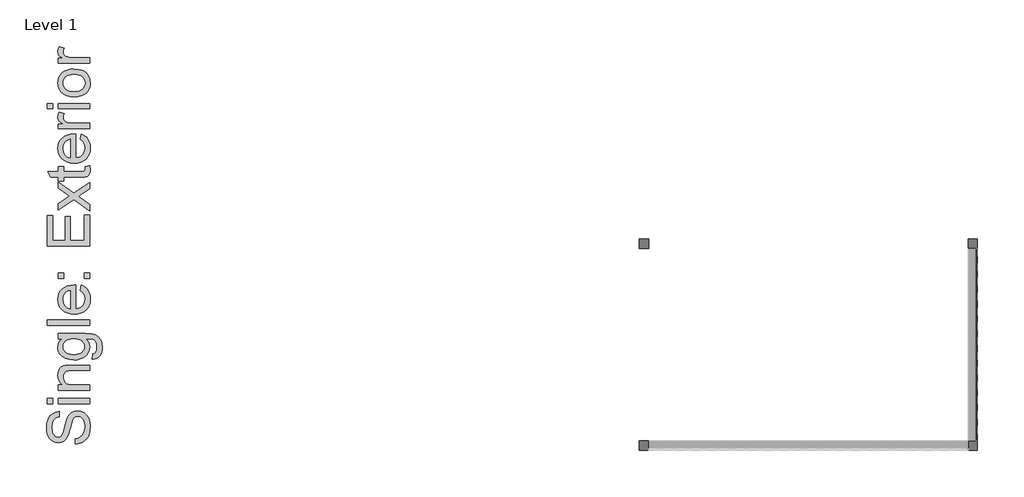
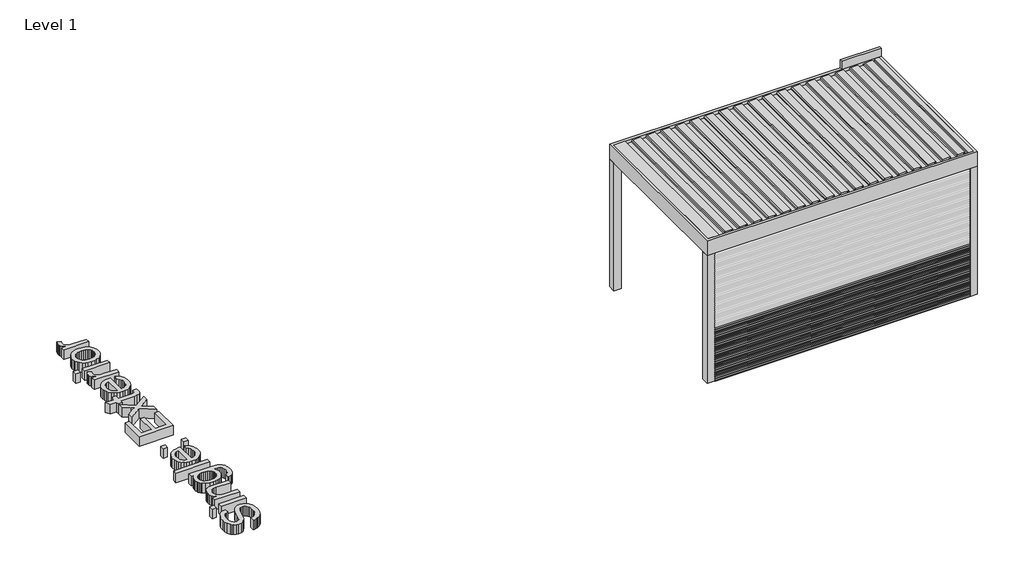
# One storey, part 37 of 47: 54 proxies.
"""IFC4 building model written with IfcOpenShell, lengths in millimetres."""

from ifc_helpers import new_model, si_unit, frame, origin, origin_with_axes, place, context, project, spatial, polyline, outline, extrude, transform, mapped, element, save
from components import generic_models_6c472f40

model = new_model("IFC4")

# Units and contexts
model_context = context("Model", 3, world=origin())
ifc_project = project(units=[si_unit("LENGTHUNIT", "METRE", prefix="MILLI")], contexts=[model_context])

# Site, building, storey
site = spatial("IfcSite", under=ifc_project)
building = spatial("IfcBuilding", under=site)
storey = spatial("IfcBuildingStorey", under=building, Name="Level 1", Elevation=0.0)

# Proxies
placement = place(None, origin())
element("IfcBuildingElementProxy", 1, Name="Wall Sweeps", at=placement, inside=storey, context=model_context, shape_type="SweptSolid", body=[
    extrude(outline(polyline([(39522.1593685, 808.5), (39541.3093685, 819.5562577), (39541.3093685, 832.5), (39542.5593685, 832.5), (39542.5593685, 818.8345698), (39523.4093685, 807.7782281), (39523.4093685, 795.7216933), (39522.1593685, 795.0), (39522.1593685, 808.5)])), frame((186472.4238385, 0.0, 0.0), z_axis=(1.0, 0.0, 0.0), x_axis=(0.0, 1.0, 0.0)), (0.0, 0.0, 1.0), 3780.0),
])
element("IfcBuildingElementProxy", 2, Name="Wall Sweeps", at=placement, inside=storey, context=model_context, shape_type="SweptSolid", body=[
    extrude(outline(polyline([(39522.1593685, 775.2), (39541.3093685, 786.2562577), (39541.3093685, 799.2), (39542.5593685, 799.2), (39542.5593685, 785.5345698), (39523.4093685, 774.4782281), (39523.4093685, 762.4216933), (39522.1593685, 761.7), (39522.1593685, 775.2)])), frame((186472.4238385, 0.0, 0.0), z_axis=(1.0, 0.0, 0.0), x_axis=(0.0, 1.0, 0.0)), (0.0, 0.0, 1.0), 3780.0),
])
element("IfcBuildingElementProxy", 3, Name="Wall Sweeps", at=placement, inside=storey, context=model_context, shape_type="SweptSolid", body=[
    extrude(outline(polyline([(39522.1593685, 741.9), (39541.3093685, 752.9562577), (39541.3093685, 765.9), (39542.5593685, 765.9), (39542.5593685, 752.2345698), (39523.4093685, 741.1782281), (39523.4093685, 729.1216933), (39522.1593685, 728.4), (39522.1593685, 741.9)])), frame((186472.4238385, 0.0, 0.0), z_axis=(1.0, 0.0, 0.0), x_axis=(0.0, 1.0, 0.0)), (0.0, 0.0, 1.0), 3780.0),
])
element("IfcBuildingElementProxy", 4, Name="Wall Sweeps", at=placement, inside=storey, context=model_context, shape_type="SweptSolid", body=[
    extrude(outline(polyline([(39522.1593685, 708.6), (39541.3093685, 719.6562577), (39541.3093685, 732.6), (39542.5593685, 732.6), (39542.5593685, 718.9345698), (39523.4093685, 707.8782281), (39523.4093685, 695.8216933), (39522.1593685, 695.1), (39522.1593685, 708.6)])), frame((186472.4238385, 0.0, 0.0), z_axis=(1.0, 0.0, 0.0), x_axis=(0.0, 1.0, 0.0)), (0.0, 0.0, 1.0), 3780.0),
])
element("IfcBuildingElementProxy", 5, Name="Wall Sweeps", at=placement, inside=storey, context=model_context, shape_type="SweptSolid", body=[
    extrude(outline(polyline([(39522.1593685, 675.3), (39541.3093685, 686.3562577), (39541.3093685, 699.3), (39542.5593685, 699.3), (39542.5593685, 685.6345698), (39523.4093685, 674.5782281), (39523.4093685, 662.5216933), (39522.1593685, 661.8), (39522.1593685, 675.3)])), frame((186472.4238385, 0.0, 0.0), z_axis=(1.0, 0.0, 0.0), x_axis=(0.0, 1.0, 0.0)), (0.0, 0.0, 1.0), 3780.0),
])
element("IfcBuildingElementProxy", 6, Name="Wall Sweeps", at=placement, inside=storey, context=model_context, shape_type="SweptSolid", body=[
    extrude(outline(polyline([(39522.1593685, 642.0), (39541.3093685, 653.0562577), (39541.3093685, 666.0), (39542.5593685, 666.0), (39542.5593685, 652.3345698), (39523.4093685, 641.2782281), (39523.4093685, 629.2216933), (39522.1593685, 628.5), (39522.1593685, 642.0)])), frame((186472.4238385, 0.0, 0.0), z_axis=(1.0, 0.0, 0.0), x_axis=(0.0, 1.0, 0.0)), (0.0, 0.0, 1.0), 3780.0),
])
element("IfcBuildingElementProxy", 7, Name="Wall Sweeps", at=placement, inside=storey, context=model_context, shape_type="SweptSolid", body=[
    extrude(outline(polyline([(39522.1593685, 608.7), (39541.3093685, 619.7562577), (39541.3093685, 632.7), (39542.5593685, 632.7), (39542.5593685, 619.0345698), (39523.4093685, 607.9782281), (39523.4093685, 595.9216933), (39522.1593685, 595.2), (39522.1593685, 608.7)])), frame((186472.4238385, 0.0, 0.0), z_axis=(1.0, 0.0, 0.0), x_axis=(0.0, 1.0, 0.0)), (0.0, 0.0, 1.0), 3780.0),
])
element("IfcBuildingElementProxy", 8, Name="Wall Sweeps", at=placement, inside=storey, context=model_context, shape_type="SweptSolid", body=[
    extrude(outline(polyline([(39522.1593685, 575.4), (39541.3093685, 586.4562577), (39541.3093685, 599.4), (39542.5593685, 599.4), (39542.5593685, 585.7345698), (39523.4093685, 574.6782281), (39523.4093685, 562.6216933), (39522.1593685, 561.9), (39522.1593685, 575.4)])), frame((186472.4238385, 0.0, 0.0), z_axis=(1.0, 0.0, 0.0), x_axis=(0.0, 1.0, 0.0)), (0.0, 0.0, 1.0), 3780.0),
])
element("IfcBuildingElementProxy", 9, Name="Wall Sweeps", at=placement, inside=storey, context=model_context, shape_type="SweptSolid", body=[
    extrude(outline(polyline([(39522.1593685, 542.1), (39541.3093685, 553.1562577), (39541.3093685, 566.1), (39542.5593685, 566.1), (39542.5593685, 552.4345698), (39523.4093685, 541.3782281), (39523.4093685, 529.3216933), (39522.1593685, 528.6), (39522.1593685, 542.1)])), frame((186472.4238385, 0.0, 0.0), z_axis=(1.0, 0.0, 0.0), x_axis=(0.0, 1.0, 0.0)), (0.0, 0.0, 1.0), 3780.0),
])
element("IfcBuildingElementProxy", 10, Name="Wall Sweeps", at=placement, inside=storey, context=model_context, shape_type="SweptSolid", body=[
    extrude(outline(polyline([(39522.1593685, 508.8), (39541.3093685, 519.8562577), (39541.3093685, 532.8), (39542.5593685, 532.8), (39542.5593685, 519.1345698), (39523.4093685, 508.0782281), (39523.4093685, 496.0216933), (39522.1593685, 495.3), (39522.1593685, 508.8)])), frame((186472.4238385, 0.0, 0.0), z_axis=(1.0, 0.0, 0.0), x_axis=(0.0, 1.0, 0.0)), (0.0, 0.0, 1.0), 3780.0),
])
element("IfcBuildingElementProxy", 11, Name="Wall Sweeps", at=placement, inside=storey, context=model_context, shape_type="SweptSolid", body=[
    extrude(outline(polyline([(39522.1593685, 475.5), (39541.3093685, 486.5562577), (39541.3093685, 499.5), (39542.5593685, 499.5), (39542.5593685, 485.8345698), (39523.4093685, 474.7782281), (39523.4093685, 462.7216933), (39522.1593685, 462.0), (39522.1593685, 475.5)])), frame((186472.4238385, 0.0, 0.0), z_axis=(1.0, 0.0, 0.0), x_axis=(0.0, 1.0, 0.0)), (0.0, 0.0, 1.0), 3780.0),
])
element("IfcBuildingElementProxy", 12, Name="Wall Sweeps", at=placement, inside=storey, context=model_context, shape_type="SweptSolid", body=[
    extrude(outline(polyline([(39522.1593685, 442.2), (39541.3093685, 453.2562577), (39541.3093685, 466.2), (39542.5593685, 466.2), (39542.5593685, 452.5345698), (39523.4093685, 441.4782281), (39523.4093685, 429.4216933), (39522.1593685, 428.7), (39522.1593685, 442.2)])), frame((186472.4238385, 0.0, 0.0), z_axis=(1.0, 0.0, 0.0), x_axis=(0.0, 1.0, 0.0)), (0.0, 0.0, 1.0), 3780.0),
])
element("IfcBuildingElementProxy", 13, Name="Wall Sweeps", at=placement, inside=storey, context=model_context, shape_type="SweptSolid", body=[
    extrude(outline(polyline([(39522.1593685, 408.9), (39541.3093685, 419.9562577), (39541.3093685, 432.9), (39542.5593685, 432.9), (39542.5593685, 419.2345698), (39523.4093685, 408.1782281), (39523.4093685, 396.1216933), (39522.1593685, 395.4), (39522.1593685, 408.9)])), frame((186472.4238385, 0.0, 0.0), z_axis=(1.0, 0.0, 0.0), x_axis=(0.0, 1.0, 0.0)), (0.0, 0.0, 1.0), 3780.0),
])
element("IfcBuildingElementProxy", 14, Name="Wall Sweeps", at=placement, inside=storey, context=model_context, shape_type="SweptSolid", body=[
    extrude(outline(polyline([(39522.1593685, 375.6), (39541.3093685, 386.6562577), (39541.3093685, 399.6), (39542.5593685, 399.6), (39542.5593685, 385.9345698), (39523.4093685, 374.8782281), (39523.4093685, 362.8216933), (39522.1593685, 362.1), (39522.1593685, 375.6)])), frame((186472.4238385, 0.0, 0.0), z_axis=(1.0, 0.0, 0.0), x_axis=(0.0, 1.0, 0.0)), (0.0, 0.0, 1.0), 3780.0),
])
element("IfcBuildingElementProxy", 15, Name="Wall Sweeps", at=placement, inside=storey, context=model_context, shape_type="SweptSolid", body=[
    extrude(outline(polyline([(39522.1593685, 342.3), (39541.3093685, 353.3562577), (39541.3093685, 366.3), (39542.5593685, 366.3), (39542.5593685, 352.6345698), (39523.4093685, 341.5782281), (39523.4093685, 329.5216933), (39522.1593685, 328.8), (39522.1593685, 342.3)])), frame((186472.4238385, 0.0, 0.0), z_axis=(1.0, 0.0, 0.0), x_axis=(0.0, 1.0, 0.0)), (0.0, 0.0, 1.0), 3780.0),
])
element("IfcBuildingElementProxy", 16, Name="Wall Sweeps", at=placement, inside=storey, context=model_context, shape_type="SweptSolid", body=[
    extrude(outline(polyline([(39522.1593685, 309.0), (39541.3093685, 320.0562577), (39541.3093685, 333.0), (39542.5593685, 333.0), (39542.5593685, 319.3345698), (39523.4093685, 308.2782281), (39523.4093685, 296.2216933), (39522.1593685, 295.5), (39522.1593685, 309.0)])), frame((186472.4238385, 0.0, 0.0), z_axis=(1.0, 0.0, 0.0), x_axis=(0.0, 1.0, 0.0)), (0.0, 0.0, 1.0), 3780.0),
])
element("IfcBuildingElementProxy", 17, Name="Wall Sweeps", at=placement, inside=storey, context=model_context, shape_type="SweptSolid", body=[
    extrude(outline(polyline([(39522.1593685, 275.7), (39541.3093685, 286.7562577), (39541.3093685, 299.7), (39542.5593685, 299.7), (39542.5593685, 286.0345698), (39523.4093685, 274.9782281), (39523.4093685, 262.9216933), (39522.1593685, 262.2), (39522.1593685, 275.7)])), frame((186472.4238385, 0.0, 0.0), z_axis=(1.0, 0.0, 0.0), x_axis=(0.0, 1.0, 0.0)), (0.0, 0.0, 1.0), 3780.0),
])
element("IfcBuildingElementProxy", 18, Name="Wall Sweeps", at=placement, inside=storey, context=model_context, shape_type="SweptSolid", body=[
    extrude(outline(polyline([(39522.1593685, 242.4), (39541.3093685, 253.4562577), (39541.3093685, 266.4), (39542.5593685, 266.4), (39542.5593685, 252.7345698), (39523.4093685, 241.6782281), (39523.4093685, 229.6216933), (39522.1593685, 228.9), (39522.1593685, 242.4)])), frame((186472.4238385, 0.0, 0.0), z_axis=(1.0, 0.0, 0.0), x_axis=(0.0, 1.0, 0.0)), (0.0, 0.0, 1.0), 3780.0),
])
element("IfcBuildingElementProxy", 19, Name="Wall Sweeps", at=placement, inside=storey, context=model_context, shape_type="SweptSolid", body=[
    extrude(outline(polyline([(39522.1593685, 209.1), (39541.3093685, 220.1562577), (39541.3093685, 233.1), (39542.5593685, 233.1), (39542.5593685, 219.4345698), (39523.4093685, 208.3782281), (39523.4093685, 196.3216933), (39522.1593685, 195.6), (39522.1593685, 209.1)])), frame((186472.4238385, 0.0, 0.0), z_axis=(1.0, 0.0, 0.0), x_axis=(0.0, 1.0, 0.0)), (0.0, 0.0, 1.0), 3780.0),
])
element("IfcBuildingElementProxy", 20, Name="Wall Sweeps", at=placement, inside=storey, context=model_context, shape_type="SweptSolid", body=[
    extrude(outline(polyline([(39522.1593685, 175.8), (39541.3093685, 186.8562577), (39541.3093685, 199.8), (39542.5593685, 199.8), (39542.5593685, 186.1345698), (39523.4093685, 175.0782281), (39523.4093685, 163.0216933), (39522.1593685, 162.3), (39522.1593685, 175.8)])), frame((186472.4238385, 0.0, 0.0), z_axis=(1.0, 0.0, 0.0), x_axis=(0.0, 1.0, 0.0)), (0.0, 0.0, 1.0), 3780.0),
])
element("IfcBuildingElementProxy", 21, Name="Wall Sweeps", at=placement, inside=storey, context=model_context, shape_type="SweptSolid", body=[
    extrude(outline(polyline([(39522.1593685, 142.5), (39541.3093685, 153.5562577), (39541.3093685, 166.5), (39542.5593685, 166.5), (39542.5593685, 152.8345698), (39523.4093685, 141.7782281), (39523.4093685, 129.7216933), (39522.1593685, 129.0), (39522.1593685, 142.5)])), frame((186472.4238385, 0.0, 0.0), z_axis=(1.0, 0.0, 0.0), x_axis=(0.0, 1.0, 0.0)), (0.0, 0.0, 1.0), 3780.0),
])
element("IfcBuildingElementProxy", 22, Name="Wall Sweeps", at=placement, inside=storey, context=model_context, shape_type="SweptSolid", body=[
    extrude(outline(polyline([(39522.1593685, 109.2), (39541.3093685, 120.2562577), (39541.3093685, 133.2), (39542.5593685, 133.2), (39542.5593685, 119.5345698), (39523.4093685, 108.4782281), (39523.4093685, 96.4216933), (39522.1593685, 95.7), (39522.1593685, 109.2)])), frame((186472.4238385, 0.0, 0.0), z_axis=(1.0, 0.0, 0.0), x_axis=(0.0, 1.0, 0.0)), (0.0, 0.0, 1.0), 3780.0),
])
element("IfcBuildingElementProxy", 23, Name="Wall Sweeps", at=placement, inside=storey, context=model_context, shape_type="SweptSolid", body=[
    extrude(outline(polyline([(39522.1593685, 75.9), (39541.3093685, 86.9562577), (39541.3093685, 99.9), (39542.5593685, 99.9), (39542.5593685, 86.2345698), (39523.4093685, 75.1782281), (39523.4093685, 63.1216933), (39522.1593685, 62.4), (39522.1593685, 75.9)])), frame((186472.4238385, 0.0, 0.0), z_axis=(1.0, 0.0, 0.0), x_axis=(0.0, 1.0, 0.0)), (0.0, 0.0, 1.0), 3780.0),
])
element("IfcBuildingElementProxy", 24, Name="Wall Sweeps", at=placement, inside=storey, context=model_context, shape_type="SweptSolid", body=[
    extrude(outline(polyline([(39522.1593685, 42.6), (39541.3093685, 53.6562577), (39541.3093685, 66.6), (39542.5593685, 66.6), (39542.5593685, 52.9345698), (39523.4093685, 41.8782281), (39523.4093685, 29.8216933), (39522.1593685, 29.1), (39522.1593685, 42.6)])), frame((186472.4238385, 0.0, 0.0), z_axis=(1.0, 0.0, 0.0), x_axis=(0.0, 1.0, 0.0)), (0.0, 0.0, 1.0), 3780.0),
])
element("IfcBuildingElementProxy", 25, Name="Wall Sweeps", at=placement, inside=storey, context=model_context, shape_type="SweptSolid", body=[
    extrude(outline(polyline([(39522.1593685, 9.3), (39541.3093685, 20.3562577), (39541.3093685, 33.3), (39542.5593685, 33.3), (39542.5593685, 19.6345698), (39523.4093685, 8.5782281), (39523.4093685, -3.4783067), (39522.1593685, -4.2), (39522.1593685, 9.3)])), frame((186472.4238385, 0.0, 0.0), z_axis=(1.0, 0.0, 0.0), x_axis=(0.0, 1.0, 0.0)), (0.0, 0.0, 1.0), 3780.0),
])
element("IfcBuildingElementProxy", 26, Name="Wall Sweeps", at=placement, inside=storey, context=model_context, shape_type="SweptSolid", body=[
    extrude(outline(polyline([(1974.0, 190362.4238385), (1985.0562577, 190343.2738385), (1998.0, 190343.2738385), (1998.0, 190342.0238385), (1984.3345698, 190342.0238385), (1973.2782281, 190361.1738385), (1961.2216933, 190361.1738385), (1960.5, 190362.4238385), (1974.0, 190362.4238385)])), frame((0.0, 39632.1593685, 0.0), z_axis=(0.0, 1.0, 0.0), x_axis=(0.0, 0.0, 1.0)), (0.0, 0.0, 1.0), 2280.0),
])
element("IfcBuildingElementProxy", 27, Name="Wall Sweeps", at=placement, inside=storey, context=model_context, shape_type="SweptSolid", body=[
    extrude(outline(polyline([(1940.7, 190362.4238385), (1951.7562577, 190343.2738385), (1964.7, 190343.2738385), (1964.7, 190342.0238385), (1951.0345698, 190342.0238385), (1939.9782281, 190361.1738385), (1927.9216933, 190361.1738385), (1927.2, 190362.4238385), (1940.7, 190362.4238385)])), frame((0.0, 39632.1593685, 0.0), z_axis=(0.0, 1.0, 0.0), x_axis=(0.0, 0.0, 1.0)), (0.0, 0.0, 1.0), 2280.0),
])
element("IfcBuildingElementProxy", 28, Name="Wall Sweeps", at=placement, inside=storey, context=model_context, shape_type="SweptSolid", body=[
    extrude(outline(polyline([(1907.4, 190362.4238385), (1918.4562577, 190343.2738385), (1931.4, 190343.2738385), (1931.4, 190342.0238385), (1917.7345698, 190342.0238385), (1906.6782281, 190361.1738385), (1894.6216933, 190361.1738385), (1893.9, 190362.4238385), (1907.4, 190362.4238385)])), frame((0.0, 39632.1593685, 0.0), z_axis=(0.0, 1.0, 0.0), x_axis=(0.0, 0.0, 1.0)), (0.0, 0.0, 1.0), 2280.0),
])
element("IfcBuildingElementProxy", 29, Name="Wall Sweeps", at=placement, inside=storey, context=model_context, shape_type="SweptSolid", body=[
    extrude(outline(polyline([(1874.1, 190362.4238385), (1885.1562577, 190343.2738385), (1898.1, 190343.2738385), (1898.1, 190342.0238385), (1884.4345698, 190342.0238385), (1873.3782281, 190361.1738385), (1861.3216933, 190361.1738385), (1860.6, 190362.4238385), (1874.1, 190362.4238385)])), frame((0.0, 39632.1593685, 0.0), z_axis=(0.0, 1.0, 0.0), x_axis=(0.0, 0.0, 1.0)), (0.0, 0.0, 1.0), 2280.0),
])
element("IfcBuildingElementProxy", 30, Name="Wall Sweeps", at=placement, inside=storey, context=model_context, shape_type="SweptSolid", body=[
    extrude(outline(polyline([(1840.8, 190362.4238385), (1851.8562577, 190343.2738385), (1864.8, 190343.2738385), (1864.8, 190342.0238385), (1851.1345698, 190342.0238385), (1840.0782281, 190361.1738385), (1828.0216933, 190361.1738385), (1827.3, 190362.4238385), (1840.8, 190362.4238385)])), frame((0.0, 39632.1593685, 0.0), z_axis=(0.0, 1.0, 0.0), x_axis=(0.0, 0.0, 1.0)), (0.0, 0.0, 1.0), 2280.0),
])
element("IfcBuildingElementProxy", 31, Name="Wall Sweeps", at=placement, inside=storey, context=model_context, shape_type="SweptSolid", body=[
    extrude(outline(polyline([(1807.5, 190362.4238385), (1818.5562577, 190343.2738385), (1831.5, 190343.2738385), (1831.5, 190342.0238385), (1817.8345698, 190342.0238385), (1806.7782281, 190361.1738385), (1794.7216933, 190361.1738385), (1794.0, 190362.4238385), (1807.5, 190362.4238385)])), frame((0.0, 39632.1593685, 0.0), z_axis=(0.0, 1.0, 0.0), x_axis=(0.0, 0.0, 1.0)), (0.0, 0.0, 1.0), 2280.0),
])
element("IfcBuildingElementProxy", 32, Name="Wall Sweeps", at=placement, inside=storey, context=model_context, shape_type="SweptSolid", body=[
    extrude(outline(polyline([(1774.2, 190362.4238385), (1785.2562577, 190343.2738385), (1798.2, 190343.2738385), (1798.2, 190342.0238385), (1784.5345698, 190342.0238385), (1773.4782281, 190361.1738385), (1761.4216933, 190361.1738385), (1760.7, 190362.4238385), (1774.2, 190362.4238385)])), frame((0.0, 39632.1593685, 0.0), z_axis=(0.0, 1.0, 0.0), x_axis=(0.0, 0.0, 1.0)), (0.0, 0.0, 1.0), 2280.0),
])
element("IfcBuildingElementProxy", 33, Name="Wall Sweeps", at=placement, inside=storey, context=model_context, shape_type="SweptSolid", body=[
    extrude(outline(polyline([(1740.9, 190362.4238385), (1751.9562577, 190343.2738385), (1764.9, 190343.2738385), (1764.9, 190342.0238385), (1751.2345698, 190342.0238385), (1740.1782281, 190361.1738385), (1728.1216933, 190361.1738385), (1727.4, 190362.4238385), (1740.9, 190362.4238385)])), frame((0.0, 39632.1593685, 0.0), z_axis=(0.0, 1.0, 0.0), x_axis=(0.0, 0.0, 1.0)), (0.0, 0.0, 1.0), 2280.0),
])
element("IfcBuildingElementProxy", 34, Name="Wall Sweeps", at=placement, inside=storey, context=model_context, shape_type="SweptSolid", body=[
    extrude(outline(polyline([(1707.6, 190362.4238385), (1718.6562577, 190343.2738385), (1731.6, 190343.2738385), (1731.6, 190342.0238385), (1717.9345698, 190342.0238385), (1706.8782281, 190361.1738385), (1694.8216933, 190361.1738385), (1694.1, 190362.4238385), (1707.6, 190362.4238385)])), frame((0.0, 39632.1593685, 0.0), z_axis=(0.0, 1.0, 0.0), x_axis=(0.0, 0.0, 1.0)), (0.0, 0.0, 1.0), 2280.0),
])
element("IfcBuildingElementProxy", 35, Name="Wall Sweeps", at=placement, inside=storey, context=model_context, shape_type="SweptSolid", body=[
    extrude(outline(polyline([(1674.3, 190362.4238385), (1685.3562577, 190343.2738385), (1698.3, 190343.2738385), (1698.3, 190342.0238385), (1684.6345698, 190342.0238385), (1673.5782281, 190361.1738385), (1661.5216933, 190361.1738385), (1660.8, 190362.4238385), (1674.3, 190362.4238385)])), frame((0.0, 39632.1593685, 0.0), z_axis=(0.0, 1.0, 0.0), x_axis=(0.0, 0.0, 1.0)), (0.0, 0.0, 1.0), 2280.0),
])
element("IfcBuildingElementProxy", 36, Name="Wall Sweeps", at=placement, inside=storey, context=model_context, shape_type="SweptSolid", body=[
    extrude(outline(polyline([(1641.0, 190362.4238385), (1652.0562577, 190343.2738385), (1665.0, 190343.2738385), (1665.0, 190342.0238385), (1651.3345698, 190342.0238385), (1640.2782281, 190361.1738385), (1628.2216933, 190361.1738385), (1627.5, 190362.4238385), (1641.0, 190362.4238385)])), frame((0.0, 39632.1593685, 0.0), z_axis=(0.0, 1.0, 0.0), x_axis=(0.0, 0.0, 1.0)), (0.0, 0.0, 1.0), 2280.0),
])
element("IfcBuildingElementProxy", 37, Name="Wall Sweeps", at=placement, inside=storey, context=model_context, shape_type="SweptSolid", body=[
    extrude(outline(polyline([(1607.7, 190362.4238385), (1618.7562577, 190343.2738385), (1631.7, 190343.2738385), (1631.7, 190342.0238385), (1618.0345698, 190342.0238385), (1606.9782281, 190361.1738385), (1594.9216933, 190361.1738385), (1594.2, 190362.4238385), (1607.7, 190362.4238385)])), frame((0.0, 39632.1593685, 0.0), z_axis=(0.0, 1.0, 0.0), x_axis=(0.0, 0.0, 1.0)), (0.0, 0.0, 1.0), 2280.0),
])
element("IfcBuildingElementProxy", 38, Name="Wall Sweeps", at=placement, inside=storey, context=model_context, shape_type="SweptSolid", body=[
    extrude(outline(polyline([(1574.4, 190362.4238385), (1585.4562577, 190343.2738385), (1598.4, 190343.2738385), (1598.4, 190342.0238385), (1584.7345698, 190342.0238385), (1573.6782281, 190361.1738385), (1561.6216933, 190361.1738385), (1560.9, 190362.4238385), (1574.4, 190362.4238385)])), frame((0.0, 39632.1593685, 0.0), z_axis=(0.0, 1.0, 0.0), x_axis=(0.0, 0.0, 1.0)), (0.0, 0.0, 1.0), 2280.0),
])
element("IfcBuildingElementProxy", 39, Name="Wall Sweeps", at=placement, inside=storey, context=model_context, shape_type="SweptSolid", body=[
    extrude(outline(polyline([(1541.1, 190362.4238385), (1552.1562577, 190343.2738385), (1565.1, 190343.2738385), (1565.1, 190342.0238385), (1551.4345698, 190342.0238385), (1540.3782281, 190361.1738385), (1528.3216933, 190361.1738385), (1527.6, 190362.4238385), (1541.1, 190362.4238385)])), frame((0.0, 39632.1593685, 0.0), z_axis=(0.0, 1.0, 0.0), x_axis=(0.0, 0.0, 1.0)), (0.0, 0.0, 1.0), 2280.0),
])
element("IfcBuildingElementProxy", 40, Name="Wall Sweeps", at=placement, inside=storey, context=model_context, shape_type="SweptSolid", body=[
    extrude(outline(polyline([(1507.8, 190362.4238385), (1518.8562577, 190343.2738385), (1531.8, 190343.2738385), (1531.8, 190342.0238385), (1518.1345698, 190342.0238385), (1507.0782281, 190361.1738385), (1495.0216933, 190361.1738385), (1494.3, 190362.4238385), (1507.8, 190362.4238385)])), frame((0.0, 39632.1593685, 0.0), z_axis=(0.0, 1.0, 0.0), x_axis=(0.0, 0.0, 1.0)), (0.0, 0.0, 1.0), 2280.0),
])
element("IfcBuildingElementProxy", 41, Name="Wall Sweeps", at=placement, inside=storey, context=model_context, shape_type="SweptSolid", body=[
    extrude(outline(polyline([(1474.5, 190362.4238385), (1485.5562577, 190343.2738385), (1498.5, 190343.2738385), (1498.5, 190342.0238385), (1484.8345698, 190342.0238385), (1473.7782281, 190361.1738385), (1461.7216933, 190361.1738385), (1461.0, 190362.4238385), (1474.5, 190362.4238385)])), frame((0.0, 39632.1593685, 0.0), z_axis=(0.0, 1.0, 0.0), x_axis=(0.0, 0.0, 1.0)), (0.0, 0.0, 1.0), 2280.0),
])
element("IfcBuildingElementProxy", 42, Name="Wall Sweeps", at=placement, inside=storey, context=model_context, shape_type="SweptSolid", body=[
    extrude(outline(polyline([(1441.2, 190362.4238385), (1452.2562577, 190343.2738385), (1465.2, 190343.2738385), (1465.2, 190342.0238385), (1451.5345698, 190342.0238385), (1440.4782281, 190361.1738385), (1428.4216933, 190361.1738385), (1427.7, 190362.4238385), (1441.2, 190362.4238385)])), frame((0.0, 39632.1593685, 0.0), z_axis=(0.0, 1.0, 0.0), x_axis=(0.0, 0.0, 1.0)), (0.0, 0.0, 1.0), 2280.0),
])
element("IfcBuildingElementProxy", 43, Name="Wall Sweeps", at=placement, inside=storey, context=model_context, shape_type="SweptSolid", body=[
    extrude(outline(polyline([(1407.9, 190362.4238385), (1418.9562577, 190343.2738385), (1431.9, 190343.2738385), (1431.9, 190342.0238385), (1418.2345698, 190342.0238385), (1407.1782281, 190361.1738385), (1395.1216933, 190361.1738385), (1394.4, 190362.4238385), (1407.9, 190362.4238385)])), frame((0.0, 39632.1593685, 0.0), z_axis=(0.0, 1.0, 0.0), x_axis=(0.0, 0.0, 1.0)), (0.0, 0.0, 1.0), 2280.0),
])
element("IfcBuildingElementProxy", 44, Name="Wall Sweeps", at=placement, inside=storey, context=model_context, shape_type="SweptSolid", body=[
    extrude(outline(polyline([(1374.6, 190362.4238385), (1385.6562577, 190343.2738385), (1398.6, 190343.2738385), (1398.6, 190342.0238385), (1384.9345698, 190342.0238385), (1373.8782281, 190361.1738385), (1361.8216933, 190361.1738385), (1361.1, 190362.4238385), (1374.6, 190362.4238385)])), frame((0.0, 39632.1593685, 0.0), z_axis=(0.0, 1.0, 0.0), x_axis=(0.0, 0.0, 1.0)), (0.0, 0.0, 1.0), 2280.0),
])
element("IfcBuildingElementProxy", 45, Name="Wall Sweeps", at=placement, inside=storey, context=model_context, shape_type="SweptSolid", body=[
    extrude(outline(polyline([(1341.3, 190362.4238385), (1352.3562577, 190343.2738385), (1365.3, 190343.2738385), (1365.3, 190342.0238385), (1351.6345698, 190342.0238385), (1340.5782281, 190361.1738385), (1328.5216933, 190361.1738385), (1327.8, 190362.4238385), (1341.3, 190362.4238385)])), frame((0.0, 39632.1593685, 0.0), z_axis=(0.0, 1.0, 0.0), x_axis=(0.0, 0.0, 1.0)), (0.0, 0.0, 1.0), 2280.0),
])
element("IfcBuildingElementProxy", 46, Name="Wall Sweeps", at=placement, inside=storey, context=model_context, shape_type="SweptSolid", body=[
    extrude(outline(polyline([(1308.0, 190362.4238385), (1319.0562577, 190343.2738385), (1332.0, 190343.2738385), (1332.0, 190342.0238385), (1318.3345698, 190342.0238385), (1307.2782281, 190361.1738385), (1295.2216933, 190361.1738385), (1294.5, 190362.4238385), (1308.0, 190362.4238385)])), frame((0.0, 39632.1593685, 0.0), z_axis=(0.0, 1.0, 0.0), x_axis=(0.0, 0.0, 1.0)), (0.0, 0.0, 1.0), 2280.0),
])
element("IfcBuildingElementProxy", 47, Name="Wall Sweeps", at=placement, inside=storey, context=model_context, shape_type="SweptSolid", body=[
    extrude(outline(polyline([(1274.7, 190362.4238385), (1285.7562577, 190343.2738385), (1298.7, 190343.2738385), (1298.7, 190342.0238385), (1285.0345698, 190342.0238385), (1273.9782281, 190361.1738385), (1261.9216933, 190361.1738385), (1261.2, 190362.4238385), (1274.7, 190362.4238385)])), frame((0.0, 39632.1593685, 0.0), z_axis=(0.0, 1.0, 0.0), x_axis=(0.0, 0.0, 1.0)), (0.0, 0.0, 1.0), 2280.0),
])
element("IfcBuildingElementProxy", 48, Name="Wall Sweeps", at=placement, inside=storey, context=model_context, shape_type="SweptSolid", body=[
    extrude(outline(polyline([(1241.4, 190362.4238385), (1252.4562577, 190343.2738385), (1265.4, 190343.2738385), (1265.4, 190342.0238385), (1251.7345698, 190342.0238385), (1240.6782281, 190361.1738385), (1228.6216933, 190361.1738385), (1227.9, 190362.4238385), (1241.4, 190362.4238385)])), frame((0.0, 39632.1593685, 0.0), z_axis=(0.0, 1.0, 0.0), x_axis=(0.0, 0.0, 1.0)), (0.0, 0.0, 1.0), 2280.0),
])
element("IfcBuildingElementProxy", 49, Name="Wall Sweeps", at=placement, inside=storey, context=model_context, shape_type="SweptSolid", body=[
    extrude(outline(polyline([(1208.1, 190362.4238385), (1219.1562577, 190343.2738385), (1232.1, 190343.2738385), (1232.1, 190342.0238385), (1218.4345698, 190342.0238385), (1207.3782281, 190361.1738385), (1195.3216933, 190361.1738385), (1194.6, 190362.4238385), (1208.1, 190362.4238385)])), frame((0.0, 39632.1593685, 0.0), z_axis=(0.0, 1.0, 0.0), x_axis=(0.0, 0.0, 1.0)), (0.0, 0.0, 1.0), 2280.0),
])
element("IfcBuildingElementProxy", 50, Name="Wall Sweeps", at=placement, inside=storey, context=model_context, shape_type="SweptSolid", body=[
    extrude(outline(polyline([(1174.8, 190362.4238385), (1185.8562577, 190343.2738385), (1198.8, 190343.2738385), (1198.8, 190342.0238385), (1185.1345698, 190342.0238385), (1174.0782281, 190361.1738385), (1162.0216933, 190361.1738385), (1161.3, 190362.4238385), (1174.8, 190362.4238385)])), frame((0.0, 39632.1593685, 0.0), z_axis=(0.0, 1.0, 0.0), x_axis=(0.0, 0.0, 1.0)), (0.0, 0.0, 1.0), 2280.0),
])
element("IfcBuildingElementProxy", 51, Name="Wall Sweeps", at=placement, inside=storey, context=model_context, shape_type="SweptSolid", body=[
    extrude(outline(polyline([(1141.5, 190362.4238385), (1152.5562577, 190343.2738385), (1165.5, 190343.2738385), (1165.5, 190342.0238385), (1151.8345698, 190342.0238385), (1140.7782281, 190361.1738385), (1128.7216933, 190361.1738385), (1128.0, 190362.4238385), (1141.5, 190362.4238385)])), frame((0.0, 39632.1593685, 0.0), z_axis=(0.0, 1.0, 0.0), x_axis=(0.0, 0.0, 1.0)), (0.0, 0.0, 1.0), 2280.0),
])
element("IfcBuildingElementProxy", 52, Name="Wall Sweeps", at=placement, inside=storey, context=model_context, shape_type="SweptSolid", body=[
    extrude(outline(polyline([(1108.2, 190362.4238385), (1119.2562577, 190343.2738385), (1132.2, 190343.2738385), (1132.2, 190342.0238385), (1118.5345698, 190342.0238385), (1107.4782281, 190361.1738385), (1095.4216933, 190361.1738385), (1094.7, 190362.4238385), (1108.2, 190362.4238385)])), frame((0.0, 39632.1593685, 0.0), z_axis=(0.0, 1.0, 0.0), x_axis=(0.0, 0.0, 1.0)), (0.0, 0.0, 1.0), 2280.0),
])
generic_models_shape = generic_models_6c472f40(model_context)
element("IfcBuildingElementProxy", 53, Name="Renson_Algarve_Single : Algarve - Single", ObjectType="Renson_Algarve_Single : Algarve - Single", at=placement, inside=storey, context=model_context, shape_type="MappedRepresentation", body=[
    mapped(generic_models_shape, transform((188362.4238385, 40772.1593685, 0.0), x_axis=(1.0, 0.0, 0.0), y_axis=(0.0, 1.0, 0.0), z_axis=(0.0, 0.0, 1.0))),
])
element("IfcBuildingElementProxy", 54, Name="500mm Arial", ObjectType="500mm Arial", at=placement, inside=storey, context=model_context, shape_type="SweptSolid", body=[
    extrude(outline(polyline([(179683.9842251, 39596.6920815), (179683.9842251, 39659.4772753), (179718.8257157, 39666.6816311), (179746.8307326, 39679.7107851), (179769.0569365, 39700.0362653), (179786.5619881, 39729.1295998), (179797.9203447, 39764.691526), (179801.7064636, 39804.4227814), (179798.8400497, 39839.4022278), (179790.240808, 39870.0284039), (179776.6291742, 39894.8451102), (179758.7255838, 39912.396147), (179738.1701773, 39922.8347986), (179716.6030953, 39926.3143492), (179695.5878364, 39923.7085184), (179677.4236629, 39915.891026), (179661.9266338, 39900.0107865), (179648.9128082, 39873.2167145), (179624.9391649, 39781.7980387), (179609.0742538, 39721.7872883), (179593.9757636, 39683.389605), (179572.8532057, 39652.1349639), (179547.2547502, 39629.9854021), (179517.7322201, 39616.7876355), (179484.8374384, 39612.38838), (179448.0645673, 39617.8299678), (179413.7748996, 39634.1547313), (179398.2472138, 39646.2910051), (179384.712222, 39660.9334749), (179363.620321, 39697.7370028), (179350.7904364, 39741.9134991), (179346.5138082, 39790.8111476), (179350.9897058, 39843.7861549), (179364.4173986, 39890.1392863), (179386.5209752, 39928.2150728), (179400.722753, 39943.5281609), (179417.0245239, 39956.3580454), (179454.0273213, 39974.1696654), (179495.6286436, 39981.2513938), (179495.6286436, 39918.4661999), (179475.5944033, 39914.2662138), (179458.1659937, 39906.9392308), (179443.343415, 39896.4852507), (179431.1266671, 39882.9042737), (179421.5770636, 39865.9433809), (179414.7559183, 39845.3496534), (179409.299002, 39793.2636943), (179414.6946046, 39739.9514618), (179421.4391079, 39719.5723321), (179430.8814124, 39703.3778601), (179442.2321048, 39691.0384848), (179454.7017716, 39682.2246454), (179468.2904128, 39676.9363417), (179482.9980284, 39675.1735738), (179507.1249559, 39680.1706376), (179526.5307312, 39695.1618289), (179535.1606296, 39708.9267469), (179543.8824986, 39730.6011277), (179561.602148, 39797.6782782), (179578.4327493, 39866.901407), (179593.1173723, 39908.7786407), (179615.8953992, 39944.5704932), (179644.007715, 39969.5404836), (179677.1477514, 39984.2097782), (179715.00894, 39989.099543), (179753.7131916, 39983.4740142), (179790.1181807, 39966.5974276), (179821.449464, 39939.1595622), (179844.932598, 39901.8501965), (179859.6018926, 39856.9839215), (179864.4916574, 39806.8753281), (179859.2186821, 39745.3623928), (179852.6274631, 39718.687116), (179843.3997563, 39694.7326332), (179831.5202336, 39673.3533243), (179816.9735664, 39654.4035695), (179799.7597547, 39637.8833686), (179779.8787985, 39623.7927218), (179757.9744914, 39612.4420294), (179734.6906268, 39604.1416919), (179710.0272047, 39598.8917093), (179683.9842251, 39596.6920815)])), origin_with_axes(), (0.0, 0.0, 1.0), 150.0),
    extrude(outline(polyline([(179417.1471513, 40075.4291846), (179354.3619574, 40075.4291846), (179354.3619574, 40138.2143784), (179417.1471513, 40138.2143784), (179417.1471513, 40075.4291846)])), origin_with_axes(), (0.0, 0.0, 1.0), 150.0),
    extrude(outline(polyline([(179856.6435082, 40075.4291846), (179487.7804943, 40075.4291846), (179487.7804943, 40138.2143784), (179856.6435082, 40138.2143784), (179856.6435082, 40075.4291846)])), origin_with_axes(), (0.0, 0.0, 1.0), 150.0),
    extrude(outline(polyline([(179856.6435082, 40232.3921692), (179487.7804943, 40232.3921692), (179487.7804943, 40295.177363), (179539.2839737, 40295.177363), (179513.3176362, 40316.9896996), (179494.7702523, 40343.1859634), (179483.6418219, 40373.7661542), (179479.9323451, 40408.7302722), (179482.9213863, 40439.678345), (179491.88851, 40468.0205871), (179505.7147416, 40491.6570053), (179523.2811069, 40508.4876065), (179544.5416205, 40519.9072768), (179569.4502973, 40527.310902), (179630.1508265, 40530.6218399), (179856.6435082, 40530.6218399), (179856.6435082, 40467.8366461), (179638.6121124, 40467.8366461), (179606.1465263, 40466.0278929), (179583.0619311, 40460.6016335), (179566.5225697, 40450.5921775), (179553.6926851, 40435.0338348), (179545.4613255, 40415.091565), (179542.717539, 40391.9303277), (179544.2580448, 40372.8656098), (179548.8795624, 40355.1574566), (179556.5820916, 40338.8058684), (179567.3656326, 40323.810845), (179582.4564586, 40311.2836966), (179603.080843, 40302.3357335), (179629.2387857, 40296.9669556), (179660.9302867, 40295.177363), (179856.6435082, 40295.177363), (179856.6435082, 40232.3921692)])), origin_with_axes(), (0.0, 0.0, 1.0), 150.0),
    extrude(outline(polyline([(179888.0361051, 40601.255183), (179895.8842543, 40664.0403768), (179915.5046274, 40670.9688211), (179928.9936339, 40684.3965139), (179939.4782708, 40710.7920471), (179942.9731497, 40745.3422978), (179939.0184183, 40782.191811), (179927.1542239, 40809.5990196), (179908.1469875, 40828.606256), (179882.7631298, 40840.2558525), (179855.75446, 40843.658761), (179809.5546128, 40844.5478091), (179830.1560045, 40823.6551775), (179844.8712843, 40800.340656), (179853.7004522, 40774.6042448), (179856.6435082, 40746.4459438), (179853.2176071, 40712.0221525), (179842.9399039, 40681.714041), (179825.8103985, 40655.5216094), (179801.8290909, 40633.4448576), (179773.0576532, 40615.9283097), (179741.5577573, 40603.4164897), (179707.3294034, 40595.9093977), (179670.3725913, 40593.4070338), (179619.681518, 40597.8982598), (179573.0678036, 40611.3719379), (179533.5664743, 40633.3528871), (179517.6210891, 40647.3553955), (179504.2125568, 40663.3659265), (179493.5899642, 40681.1277291), (179486.002398, 40700.3840523), (179481.4498583, 40721.1348961), (179479.9323451, 40743.3802605), (179483.3659104, 40772.7418422), (179493.6666063, 40799.3902942), (179510.8344327, 40823.3256165), (179534.8693897, 40844.5478091), (179487.7804943, 40844.5478091), (179487.7804943, 40907.333003), (179806.2436748, 40907.333003), (179879.7740886, 40903.0410464), (179907.1238157, 40897.6761006), (179928.1965562, 40890.1651765), (179960.3095887, 40867.9849579), (179984.9116972, 40835.7799549), (179994.032105, 40816.0944361), (180000.546682, 40794.2552747), (180005.7583436, 40744.1160245), (180003.9227657, 40713.3557247), (179998.4160321, 40685.6994293), (179989.2381427, 40661.1471382), (179976.3890976, 40639.6988515), (179959.8535683, 40622.3739088), (179939.6162265, 40610.1916498), (179915.6770721, 40603.1520745), (179888.0361051, 40601.255183)]), holes=[polyline([(179666.0806347, 40656.1922276), (179697.1245101, 40657.8668571), (179723.6694953, 40662.8907456), (179745.7155903, 40671.2638931), (179763.2627951, 40682.9862996), (179776.6483347, 40697.2378948), (179786.2094345, 40713.1986084), (179791.9460944, 40730.8684405), (179793.8583143, 40750.247391), (179791.9575907, 40769.4347363), (179786.2554198, 40787.0202621), (179776.7518016, 40803.0039684), (179763.4467361, 40817.3858552), (179746.071976, 40829.26921), (179724.3592741, 40837.7573206), (179698.3086303, 40842.850187), (179667.9200446, 40844.5478091), (179638.7998855, 40842.8003697), (179613.4888378, 40837.5580512), (179591.9869016, 40828.8208538), (179574.2940769, 40816.5887775), (179560.4793415, 40801.8964903), (179550.6116734, 40785.7786604), (179544.6910726, 40768.2352878), (179542.717539, 40749.2663724), (179544.6604157, 40730.6155216), (179550.4890461, 40713.4132063), (179560.20343, 40697.6594262), (179573.8035675, 40683.3541816), (179591.228145, 40671.4708267), (179612.4158486, 40662.9827161), (179637.3666785, 40657.8898497), (179666.0806347, 40656.1922276)])]), origin_with_axes(), (0.0, 0.0, 1.0), 150.0),
    extrude(outline(polyline([(179856.6435082, 41001.5107937), (179354.3619574, 41001.5107937), (179354.3619574, 41064.2959876), (179856.6435082, 41064.2959876), (179856.6435082, 41001.5107937)])), origin_with_axes(), (0.0, 0.0, 1.0), 150.0),
    extrude(outline(polyline([(179746.7694189, 41416.726939), (179754.6175682, 41478.2858595), (179779.2733261, 41468.8473871), (179801.0013564, 41456.1056409), (179819.8016592, 41440.0606209), (179835.6742344, 41420.7123272), (179848.281857, 41398.2600292), (179857.2873017, 41372.9029963), (179862.6905685, 41344.6412284), (179864.4916574, 41313.4747257), (179861.383821, 41274.5175552), (179852.0603117, 41239.8063561), (179836.5211295, 41209.3411284), (179814.7662744, 41183.121872), (179787.4012189, 41162.0376352), (179755.0314354, 41146.977466), (179717.656924, 41137.9413645), (179675.2776846, 41134.9293307), (179631.4614061, 41137.9720213), (179592.8414608, 41147.1000933), (179559.4178487, 41162.3135467), (179531.1905698, 41183.6123814), (179508.7650965, 41209.7626598), (179492.7469013, 41239.5304446), (179483.1359842, 41272.9157357), (179479.9323451, 41309.918533), (179483.1283199, 41345.729546), (179492.7162444, 41378.1146579), (179508.6961186, 41407.0738687), (179531.0679424, 41432.6071784), (179559.2339077, 41453.4499927), (179592.5962061, 41468.3377172), (179631.1548378, 41477.2703519), (179674.9098026, 41480.2478968), (179691.8323743, 41479.8800148), (179691.8323743, 41197.7145245), (179716.886671, 41201.3511913), (179738.8292992, 41208.5823718), (179757.6602588, 41219.4080659), (179773.3795499, 41233.8282737), (179785.7725746, 41251.0459175), (179794.6247352, 41270.2639196), (179799.9360315, 41291.4822801), (179801.7064636, 41314.700999), (179798.4261824, 41348.1169469), (179788.5853391, 41376.2599195), (179771.5707968, 41399.1299169), (179746.7694189, 41416.726939)]), holes=[polyline([(179629.0471805, 41197.7145245), (179629.0471805, 41417.462703), (179595.8764873, 41408.9707602), (179572.1480986, 41392.3241), (179559.2722287, 41375.2022588), (179550.0751789, 41355.7198414), (179544.5569489, 41333.876848), (179542.717539, 41309.6732784), (179548.5883225, 41267.3515205), (179555.9268018, 41248.9382602), (179566.200673, 41232.3567457), (179578.934755, 41218.4423757), (179593.6538669, 41208.0305488), (179610.3580087, 41201.1212651), (179629.0471805, 41197.7145245)])]), origin_with_axes(), (0.0, 0.0, 1.0), 150.0),
    extrude(outline(polyline([(179550.5656882, 41558.7293891), (179487.7804943, 41558.7293891), (179487.7804943, 41621.5145829), (179550.5656882, 41621.5145829), (179550.5656882, 41558.7293891)])), origin_with_axes(), (0.0, 0.0, 1.0), 150.0),
    extrude(outline(polyline([(179856.6435082, 41558.7293891), (179793.8583143, 41558.7293891), (179793.8583143, 41621.5145829), (179856.6435082, 41621.5145829), (179856.6435082, 41558.7293891)])), origin_with_axes(), (0.0, 0.0, 1.0), 150.0),
    extrude(outline(polyline([(179856.6435082, 41943.2887014), (179354.3619574, 41943.2887014), (179354.3619574, 42304.303566), (179417.1471513, 42304.303566), (179417.1471513, 42006.0738952), (179566.2619866, 42006.0738952), (179566.2619866, 42288.6072675), (179629.0471805, 42288.6072675), (179629.0471805, 42006.0738952), (179793.8583143, 42006.0738952), (179793.8583143, 42312.1517152), (179856.6435082, 42312.1517152), (179856.6435082, 41943.2887014)])), origin_with_axes(), (0.0, 0.0, 1.0), 150.0),
    extrude(outline(polyline([(179856.6435082, 42359.2406106), (179671.2309826, 42493.3949115), (179487.7804943, 42367.0887598), (179487.7804943, 42442.6271962), (179576.0721732, 42503.57298), (179617.765466, 42532.022521), (179583.6750678, 42556.6706147), (179487.7804943, 42626.0776844), (179487.7804943, 42701.6161208), (179671.2309826, 42568.9333479), (179856.6435082, 42696.7110275), (179856.6435082, 42621.1725912), (179745.1752636, 42544.2852542), (179724.8191266, 42530.183111), (179856.6435082, 42434.779047), (179856.6435082, 42359.2406106)])), origin_with_axes(), (0.0, 0.0, 1.0), 150.0),
    extrude(outline(polyline([(179804.2816375, 42885.066609), (179858.4829182, 42892.9147583), (179864.4916574, 42845.9484902), (179861.8858266, 42815.8128235), (179854.0683342, 42793.3413649), (179842.0201989, 42777.4611255), (179826.7224392, 42767.0991159), (179800.4495334, 42761.396945), (179755.4759595, 42759.4962214), (179550.5656882, 42759.4962214), (179550.5656882, 42712.407326), (179487.7804943, 42712.407326), (179487.7804943, 42759.4962214), (179398.1399149, 42759.4962214), (179361.229088, 42822.2814152), (179487.7804943, 42822.2814152), (179487.7804943, 42885.066609), (179550.5656882, 42885.066609), (179550.5656882, 42822.2814152), (179753.6365495, 42822.2814152), (179786.0101651, 42825.5923532), (179797.4758206, 42836.3222447), (179801.7064636, 42857.7207141), (179804.2816375, 42885.066609)])), origin_with_axes(), (0.0, 0.0, 1.0), 150.0),
    extrude(outline(polyline([(179746.7694189, 43206.1049635), (179754.6175682, 43267.663884), (179779.2733261, 43258.2254116), (179801.0013564, 43245.4836654), (179819.8016592, 43229.4386455), (179835.6742344, 43210.0903518), (179848.281857, 43187.6380538), (179857.2873017, 43162.2810208), (179862.6905685, 43134.019253), (179864.4916574, 43102.8527502), (179861.383821, 43063.8955797), (179852.0603117, 43029.1843807), (179836.5211295, 42998.7191529), (179814.7662744, 42972.4998966), (179787.4012189, 42951.4156597), (179755.0314354, 42936.3554905), (179717.656924, 42927.319389), (179675.2776846, 42924.3073552), (179631.4614061, 42927.3500459), (179592.8414608, 42936.4781179), (179559.4178487, 42951.6915712), (179531.1905698, 42972.9904059), (179508.7650965, 42999.1406844), (179492.7469013, 43028.9084692), (179483.1359842, 43062.2937602), (179479.9323451, 43099.2965576), (179483.1283199, 43135.1075705), (179492.7162444, 43167.4926824), (179508.6961186, 43196.4518932), (179531.0679424, 43221.985203), (179559.2339077, 43242.8280173), (179592.5962061, 43257.7157417), (179631.1548378, 43266.6483764), (179674.9098026, 43269.6259213), (179691.8323743, 43269.2580393), (179691.8323743, 42987.092549), (179716.886671, 42990.7292158), (179738.8292992, 42997.9603963), (179757.6602588, 43008.7860904), (179773.3795499, 43023.2062982), (179785.7725746, 43040.423942), (179794.6247352, 43059.6419442), (179799.9360315, 43080.8603047), (179801.7064636, 43104.0790235), (179798.4261824, 43137.4949714), (179788.5853391, 43165.637944), (179771.5707968, 43188.5079414), (179746.7694189, 43206.1049635)]), holes=[polyline([(179629.0471805, 42987.092549), (179629.0471805, 43206.8407275), (179595.8764873, 43198.3487848), (179572.1480986, 43181.7021245), (179559.2722287, 43164.5802833), (179550.0751789, 43145.097866), (179544.5569489, 43123.2548725), (179542.717539, 43099.0513029), (179548.5883225, 43056.729545), (179555.9268018, 43038.3162848), (179566.200673, 43021.7347703), (179578.934755, 43007.8204002), (179593.6538669, 42997.4085733), (179610.3580087, 42990.4992896), (179629.0471805, 42987.092549)])]), origin_with_axes(), (0.0, 0.0, 1.0), 150.0),
    extrude(outline(polyline([(179856.6435082, 43332.4111152), (179487.7804943, 43332.4111152), (179487.7804943, 43387.3481598), (179542.349657, 43387.3481598), (179510.7118054, 43407.6429832), (179492.072451, 43426.3436513), (179482.9673716, 43445.105633), (179479.9323451, 43465.5843974), (179484.7761247, 43496.854367), (179499.3074635, 43528.6148459), (179555.5934088, 43507.6455722), (179545.9365064, 43485.5726525), (179542.717539, 43463.4997328), (179545.8138791, 43444.7530795), (179555.1028995, 43427.9991203), (179569.8794929, 43414.4641285), (179589.4385523, 43405.3743776), (179624.5099692, 43397.7408262), (179662.7696967, 43395.196309), (179856.6435082, 43395.196309), (179856.6435082, 43332.4111152)])), origin_with_axes(), (0.0, 0.0, 1.0), 150.0),
    extrude(outline(polyline([(179417.1471513, 43567.8555921), (179354.3619574, 43567.8555921), (179354.3619574, 43630.6407859), (179417.1471513, 43630.6407859), (179417.1471513, 43567.8555921)])), origin_with_axes(), (0.0, 0.0, 1.0), 150.0),
    extrude(outline(polyline([(179856.6435082, 43567.8555921), (179487.7804943, 43567.8555921), (179487.7804943, 43630.6407859), (179856.6435082, 43630.6407859), (179856.6435082, 43567.8555921)])), origin_with_axes(), (0.0, 0.0, 1.0), 150.0),
    extrude(outline(polyline([(179672.2120013, 43709.1222782), (179624.4409913, 43712.5175225), (179583.2765289, 43722.7032552), (179548.718614, 43739.6794765), (179520.7672466, 43763.4461862), (179502.9019772, 43787.3738443), (179490.1410705, 43813.7847059), (179482.4845265, 43842.6787709), (179479.9323451, 43874.0560394), (179483.0401816, 43908.6944285), (179492.3636909, 43940.0142155), (179507.9028731, 43968.0154002), (179529.6577281, 43992.6979829), (179556.8924921, 44012.8433542), (179588.8714009, 44027.2329052), (179625.5944547, 44035.8666357), (179667.0616533, 44038.7445459), (179730.4906407, 44033.6555117), (179756.525956, 44027.2942188), (179778.7751525, 44018.3884089), (179797.9931547, 44007.0492128), (179814.934887, 43993.3877616), (179829.6003494, 43977.4040553), (179841.989542, 43959.098094), (179858.8661286, 43918.3704914), (179864.4916574, 43874.0560394), (179861.3953173, 43838.9118126), (179852.1062969, 43807.3007857), (179836.6245963, 43779.2229588), (179814.9502154, 43754.678332), (179787.4510362, 43734.7475585), (179754.4949408, 43720.5112917), (179716.0819292, 43711.9695316), (179672.2120013, 43709.1222782)]), holes=[polyline([(179672.0893739, 43771.9074721), (179702.5431053, 43773.7238894), (179728.9118138, 43779.1731415), (179751.1954992, 43788.2552282), (179769.3941617, 43800.9701497), (179783.5307937, 43816.4365219), (179793.6283881, 43833.7729609), (179799.6869447, 43852.9794668), (179801.7064636, 43874.0560394), (179799.6754484, 43895.0253131), (179793.5824028, 43914.1551769), (179783.4273269, 43931.4456307), (179769.2102207, 43946.8966745), (179750.8314493, 43959.6115959), (179728.1913782, 43968.6936827), (179701.2900073, 43974.1429347), (179670.1273366, 43975.9593521), (179640.6392954, 43974.1314384), (179614.9603658, 43968.6476974), (179593.0905476, 43959.5081291), (179575.0298409, 43946.7127335), (179560.8932088, 43931.2042081), (179550.7956144, 43913.9252506), (179544.7370578, 43894.8758611), (179542.717539, 43874.0560394), (179544.7293936, 43852.9794668), (179550.7649576, 43833.7729609), (179560.8242309, 43816.4365219), (179574.9072135, 43800.9701497), (179593.0522265, 43788.2552282), (179615.2975909, 43779.1731415), (179641.6433067, 43773.7238894), (179672.0893739, 43771.9074721)])]), origin_with_axes(), (0.0, 0.0, 1.0), 150.0),
    extrude(outline(polyline([(179856.6435082, 44109.377889), (179487.7804943, 44109.377889), (179487.7804943, 44164.3149336), (179542.349657, 44164.3149336), (179510.7118054, 44184.609757), (179492.072451, 44203.3104251), (179482.9673716, 44222.0724069), (179479.9323451, 44242.5511712), (179484.7761247, 44273.8211408), (179499.3074635, 44305.5816198), (179555.5934088, 44284.612346), (179545.9365064, 44262.5394263), (179542.717539, 44240.4665066), (179545.8138791, 44221.7198533), (179555.1028995, 44204.9658941), (179569.8794929, 44191.4309023), (179589.4385523, 44182.3411514), (179624.5099692, 44174.7076), (179662.7696967, 44172.1630828), (179856.6435082, 44172.1630828), (179856.6435082, 44109.377889)])), origin_with_axes(), (0.0, 0.0, 1.0), 150.0),
])

save(model, "model.ifc")
